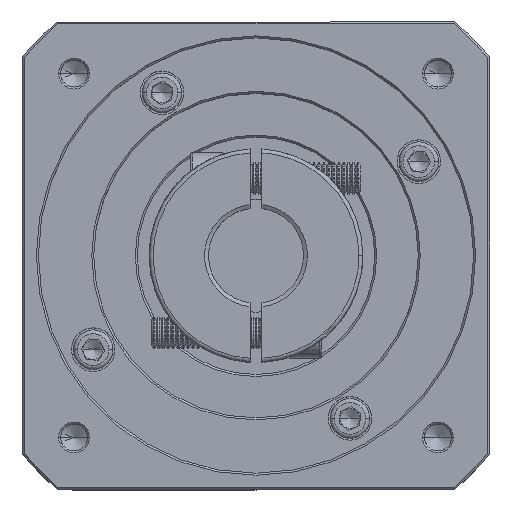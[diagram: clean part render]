
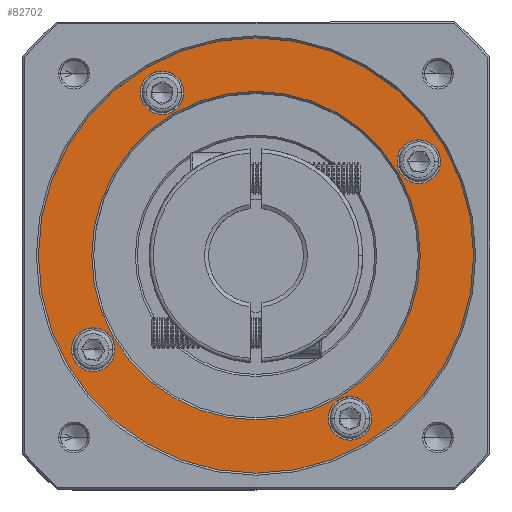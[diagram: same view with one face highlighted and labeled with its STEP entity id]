
A CAD part, top view. The second image highlights one B-rep face of the part: STEP entity #82702.
In plain terms, the highlighted planar face has unit normal (0, 0, 1).
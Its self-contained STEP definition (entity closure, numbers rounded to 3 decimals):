
#5751 = AXIS2_PLACEMENT_3D ( 'NONE', #22508, #57548, #93562 ) ;
#5793 = ORIENTED_EDGE ( 'NONE', *, *, #57821, .T. ) ;
#6159 = VERTEX_POINT ( 'NONE', #21660 ) ;
#6934 = AXIS2_PLACEMENT_3D ( 'NONE', #13332, #101856, #14117 ) ;
#8504 = CARTESIAN_POINT ( 'NONE',  ( 17.961, 95.702, 23.935 ) ) ;
#8515 = DIRECTION ( 'NONE',  ( 0., 0., -1. ) ) ;
#10161 = AXIS2_PLACEMENT_3D ( 'NONE', #44034, #43637, #114267 ) ;
#10248 = FACE_BOUND ( 'NONE', #20289, .T. ) ;
#10552 = CIRCLE ( 'NONE', #88883, 5.5 ) ;
#12502 = EDGE_CURVE ( 'NONE', #49854, #61468, #61889, .T. ) ;
#13332 = CARTESIAN_POINT ( 'NONE',  ( 23.461, 95.702, 23.935 ) ) ;
#14117 = DIRECTION ( 'NONE',  ( 1., 0., 0. ) ) ;
#15723 = EDGE_CURVE ( 'NONE', #25300, #21651, #109058, .T. ) ;
#16998 = AXIS2_PLACEMENT_3D ( 'NONE', #95877, #103192, #59886 ) ;
#19396 = DIRECTION ( 'NONE',  ( 0., -1., 0. ) ) ;
#19561 = CARTESIAN_POINT ( 'NONE',  ( 119.597, 119.452, 23.935 ) ) ;
#19814 = AXIS2_PLACEMENT_3D ( 'NONE', #89602, #36466, #19396 ) ;
#20212 = DIRECTION ( 'NONE',  ( 1., 0., 0. ) ) ;
#20289 = EDGE_LOOP ( 'NONE', ( #57583, #23007 ) ) ;
#20544 = AXIS2_PLACEMENT_3D ( 'NONE', #112128, #42277, #40728 ) ;
#21452 = CARTESIAN_POINT ( 'NONE',  ( 82.847, 78.316, 23.935 ) ) ;
#21651 = VERTEX_POINT ( 'NONE', #73434 ) ;
#21660 = CARTESIAN_POINT ( 'NONE',  ( 64.597, 160.952, 23.935 ) ) ;
#22508 = CARTESIAN_POINT ( 'NONE',  ( 64.597, 119.452, 23.935 ) ) ;
#23007 = ORIENTED_EDGE ( 'NONE', *, *, #71713, .T. ) ;
#23486 = CARTESIAN_POINT ( 'NONE',  ( 100.233, 143.202, 23.935 ) ) ;
#24228 = CARTESIAN_POINT ( 'NONE',  ( 64.597, 77.952, 23.935 ) ) ;
#25300 = VERTEX_POINT ( 'NONE', #8504 ) ;
#25501 = CIRCLE ( 'NONE', #20544, 5.5 ) ;
#30122 = AXIS2_PLACEMENT_3D ( 'NONE', #32244, #94361, #50184 ) ;
#32221 = CARTESIAN_POINT ( 'NONE',  ( 64.597, 119.452, 23.935 ) ) ;
#32244 = CARTESIAN_POINT ( 'NONE',  ( 64.597, 119.452, 23.935 ) ) ;
#32421 = CIRCLE ( 'NONE', #47666, 5.5 ) ;
#32452 = FACE_OUTER_BOUND ( 'NONE', #34668, .T. ) ;
#33078 = EDGE_CURVE ( 'NONE', #59458, #99844, #25501, .T. ) ;
#33497 = DIRECTION ( 'NONE',  ( 1., 0., 0. ) ) ;
#34136 = EDGE_LOOP ( 'NONE', ( #69289, #87637 ) ) ;
#34668 = EDGE_LOOP ( 'NONE', ( #84730, #79287 ) ) ;
#35202 = FACE_BOUND ( 'NONE', #52340, .T. ) ;
#36466 = DIRECTION ( 'NONE',  ( 0., 0., -1. ) ) ;
#38953 = ORIENTED_EDGE ( 'NONE', *, *, #101069, .T. ) ;
#39635 = EDGE_CURVE ( 'NONE', #74354, #88646, #76443, .T. ) ;
#40728 = DIRECTION ( 'NONE',  ( 1., 0., 0. ) ) ;
#41134 = CIRCLE ( 'NONE', #10161, 5.5 ) ;
#41680 = CARTESIAN_POINT ( 'NONE',  ( 40.847, 160.588, 23.935 ) ) ;
#42277 = DIRECTION ( 'NONE',  ( 0., 0., -1. ) ) ;
#43092 = DIRECTION ( 'NONE',  ( 0., 0., -1. ) ) ;
#43360 = AXIS2_PLACEMENT_3D ( 'NONE', #32221, #68019, #49397 ) ;
#43637 = DIRECTION ( 'NONE',  ( 0., 0., -1. ) ) ;
#44034 = CARTESIAN_POINT ( 'NONE',  ( 23.461, 95.702, 23.935 ) ) ;
#45461 = EDGE_CURVE ( 'NONE', #88764, #93457, #63566, .T. ) ;
#46059 = AXIS2_PLACEMENT_3D ( 'NONE', #98990, #81520, #20212 ) ;
#47047 = CIRCLE ( 'NONE', #43360, 55. ) ;
#47666 = AXIS2_PLACEMENT_3D ( 'NONE', #41680, #51483, #94134 ) ;
#47743 = CIRCLE ( 'NONE', #30122, 41.5 ) ;
#47907 = CARTESIAN_POINT ( 'NONE',  ( 111.233, 143.202, 23.935 ) ) ;
#47977 = CARTESIAN_POINT ( 'NONE',  ( 46.347, 160.588, 23.935 ) ) ;
#49397 = DIRECTION ( 'NONE',  ( 1., 0., 0. ) ) ;
#49854 = VERTEX_POINT ( 'NONE', #21452 ) ;
#50184 = DIRECTION ( 'NONE',  ( 0., -1., 0. ) ) ;
#51025 = EDGE_CURVE ( 'NONE', #88646, #74354, #47047, .T. ) ;
#51483 = DIRECTION ( 'NONE',  ( 0., 0., -1. ) ) ;
#52138 = DIRECTION ( 'NONE',  ( 1., 0., 0. ) ) ;
#52340 = EDGE_LOOP ( 'NONE', ( #104641, #107397 ) ) ;
#57548 = DIRECTION ( 'NONE',  ( 0., 0., 1. ) ) ;
#57583 = ORIENTED_EDGE ( 'NONE', *, *, #33078, .T. ) ;
#57821 = EDGE_CURVE ( 'NONE', #6159, #85580, #47743, .T. ) ;
#58689 = CIRCLE ( 'NONE', #19814, 41.5 ) ;
#59458 = VERTEX_POINT ( 'NONE', #47977 ) ;
#59886 = DIRECTION ( 'NONE',  ( 1., 0., 0. ) ) ;
#60754 = CARTESIAN_POINT ( 'NONE',  ( 105.733, 143.202, 23.935 ) ) ;
#61468 = VERTEX_POINT ( 'NONE', #74902 ) ;
#61889 = CIRCLE ( 'NONE', #16998, 5.5 ) ;
#62764 = EDGE_CURVE ( 'NONE', #93457, #88764, #10552, .T. ) ;
#63499 = AXIS2_PLACEMENT_3D ( 'NONE', #60754, #96000, #33497 ) ;
#63566 = CIRCLE ( 'NONE', #63499, 5.5 ) ;
#64553 = ORIENTED_EDGE ( 'NONE', *, *, #95834, .T. ) ;
#64565 = EDGE_LOOP ( 'NONE', ( #38953, #5793 ) ) ;
#65658 = CARTESIAN_POINT ( 'NONE',  ( 35.347, 160.588, 23.935 ) ) ;
#68019 = DIRECTION ( 'NONE',  ( 0., 0., 1. ) ) ;
#69289 = ORIENTED_EDGE ( 'NONE', *, *, #45461, .T. ) ;
#71713 = EDGE_CURVE ( 'NONE', #99844, #59458, #32421, .T. ) ;
#73431 = PLANE ( 'NONE',  #46059 ) ;
#73434 = CARTESIAN_POINT ( 'NONE',  ( 28.961, 95.702, 23.935 ) ) ;
#74354 = VERTEX_POINT ( 'NONE', #84053 ) ;
#74902 = CARTESIAN_POINT ( 'NONE',  ( 93.847, 78.316, 23.935 ) ) ;
#76443 = CIRCLE ( 'NONE', #5751, 55. ) ;
#78355 = FACE_BOUND ( 'NONE', #107878, .T. ) ;
#79195 = DIRECTION ( 'NONE',  ( 1., 0., 0. ) ) ;
#79287 = ORIENTED_EDGE ( 'NONE', *, *, #39635, .T. ) ;
#81520 = DIRECTION ( 'NONE',  ( 0., 0., 1. ) ) ;
#82702 = ADVANCED_FACE ( 'NONE', ( #32452, #87994, #107419, #78355, #10248, #35202 ), #73431, .T. ) ;
#83710 = ORIENTED_EDGE ( 'NONE', *, *, #12502, .T. ) ;
#84053 = CARTESIAN_POINT ( 'NONE',  ( 9.597, 119.452, 23.935 ) ) ;
#84730 = ORIENTED_EDGE ( 'NONE', *, *, #51025, .T. ) ;
#85580 = VERTEX_POINT ( 'NONE', #24228 ) ;
#87307 = EDGE_CURVE ( 'NONE', #21651, #25300, #41134, .T. ) ;
#87637 = ORIENTED_EDGE ( 'NONE', *, *, #62764, .T. ) ;
#87994 = FACE_BOUND ( 'NONE', #64565, .T. ) ;
#88646 = VERTEX_POINT ( 'NONE', #19561 ) ;
#88764 = VERTEX_POINT ( 'NONE', #47907 ) ;
#88883 = AXIS2_PLACEMENT_3D ( 'NONE', #114465, #8515, #79195 ) ;
#89602 = CARTESIAN_POINT ( 'NONE',  ( 64.597, 119.452, 23.935 ) ) ;
#93457 = VERTEX_POINT ( 'NONE', #23486 ) ;
#93562 = DIRECTION ( 'NONE',  ( 1., 0., 0. ) ) ;
#94134 = DIRECTION ( 'NONE',  ( 1., 0., 0. ) ) ;
#94361 = DIRECTION ( 'NONE',  ( 0., 0., -1. ) ) ;
#94561 = AXIS2_PLACEMENT_3D ( 'NONE', #104788, #43092, #52138 ) ;
#95834 = EDGE_CURVE ( 'NONE', #61468, #49854, #103251, .T. ) ;
#95877 = CARTESIAN_POINT ( 'NONE',  ( 88.347, 78.316, 23.935 ) ) ;
#96000 = DIRECTION ( 'NONE',  ( 0., 0., -1. ) ) ;
#98990 = CARTESIAN_POINT ( 'NONE',  ( 64.597, 119.452, 23.935 ) ) ;
#99844 = VERTEX_POINT ( 'NONE', #65658 ) ;
#101069 = EDGE_CURVE ( 'NONE', #85580, #6159, #58689, .T. ) ;
#101856 = DIRECTION ( 'NONE',  ( 0., 0., -1. ) ) ;
#103192 = DIRECTION ( 'NONE',  ( 0., 0., -1. ) ) ;
#103251 = CIRCLE ( 'NONE', #94561, 5.5 ) ;
#104641 = ORIENTED_EDGE ( 'NONE', *, *, #87307, .T. ) ;
#104788 = CARTESIAN_POINT ( 'NONE',  ( 88.347, 78.316, 23.935 ) ) ;
#107397 = ORIENTED_EDGE ( 'NONE', *, *, #15723, .T. ) ;
#107419 = FACE_BOUND ( 'NONE', #34136, .T. ) ;
#107878 = EDGE_LOOP ( 'NONE', ( #64553, #83710 ) ) ;
#109058 = CIRCLE ( 'NONE', #6934, 5.5 ) ;
#112128 = CARTESIAN_POINT ( 'NONE',  ( 40.847, 160.588, 23.935 ) ) ;
#114267 = DIRECTION ( 'NONE',  ( 1., 0., 0. ) ) ;
#114465 = CARTESIAN_POINT ( 'NONE',  ( 105.733, 143.202, 23.935 ) ) ;
